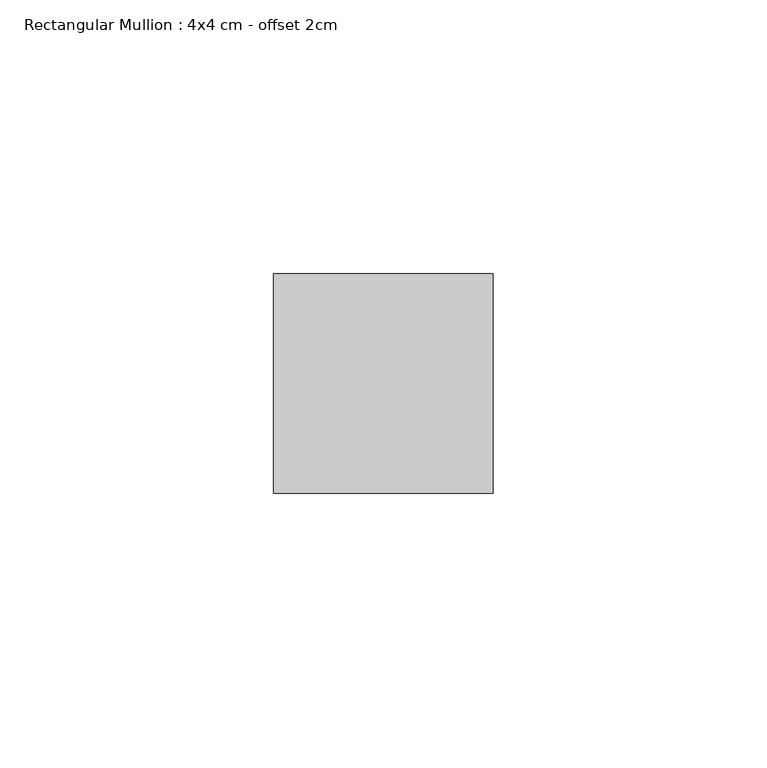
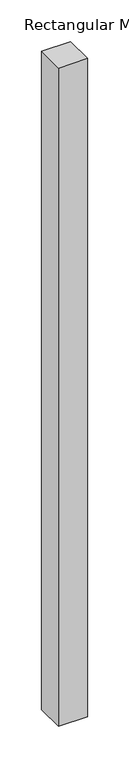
"""IFC4 building model written with IfcOpenShell, lengths in millimetres: member geometry, Rectangular Mullion : 4x4 cm - offset 2cm."""

from ifc_helpers import new_model, si_unit, frame, origin, place, context, project, spatial, polyline, outline, extrude, source, transform, mapped, element, save


def rectangular_mullion_4x4_cm_offset_2cm_0519d578(model_context):
    return source(origin(), model_context, "Body", "SweptSolid", [
        extrude(outline(polyline([(0.0, 40.0), (0.0, 0.0), (-40.0, 0.0), (-40.0, 40.0), (0.0, 40.0)])), frame((0.0, 0.0, -960.0), z_axis=(0.0, 0.0, 1.0), x_axis=(1.0, 0.0, 0.0)), (0.0, 0.0, 1.0), 960.0),
    ])


if __name__ == "__main__":
    model = new_model("IFC4")
    model_context = context("Model", 3, world=origin())
    ifc_project = project(units=[si_unit("LENGTHUNIT", "METRE", prefix="MILLI")], contexts=[model_context])
    site = spatial("IfcSite", under=ifc_project)
    building = spatial("IfcBuilding", under=site)
    placement = place(None, origin())
    rectangular_mullion_4x4_cm_offset_2cm_shape = rectangular_mullion_4x4_cm_offset_2cm_0519d578(model_context)
    element("IfcMember", 1, ObjectType="Rectangular Mullion : 4x4 cm - offset 2cm", at=placement, inside=building, context=model_context, shape_type="MappedRepresentation", body=[
        mapped(rectangular_mullion_4x4_cm_offset_2cm_shape, transform((0.0, 0.0, 0.0), x_axis=(1.0, 0.0, 0.0), y_axis=(0.0, 1.0, 0.0), z_axis=(0.0, 0.0, 1.0))),
    ])
    save(model, "model.ifc")
